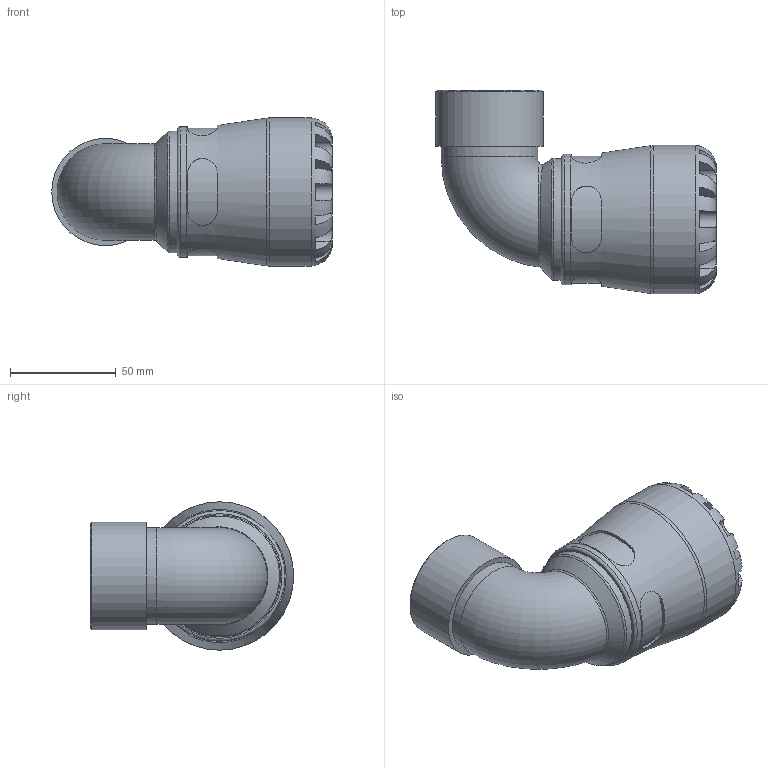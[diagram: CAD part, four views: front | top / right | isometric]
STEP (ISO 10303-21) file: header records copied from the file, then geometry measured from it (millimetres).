
FILE_DESCRIPTION(/* description */ ('PLASSON 90° ELBOW WITH THREADED FEMALE OFFTAKE 40X1.1/4" SERIES 1'),/* implementation_level */ '2;1');
FILE_NAME(/* name */ 'C:\Dropbox\KIMPROJECTS-Inventor\99-16-3568-Processing\S1\1015\101500040013_191500040013.ipt.stp',/* time_stamp */ '2017-07-30T11:52:02+03:00',/* author */ ('KIM'),/* organization */ (''),/* preprocessor_version */ 'ST-DEVELOPER v15.6',/* originating_system */ 'Autodesk Inventor 2015',/* authorisation */ '');
FILE_SCHEMA (('AUTOMOTIVE_DESIGN { 1 0 10303 214 3 1 1 }'));
Length unit declared in the file: millimetre
Products named in the file (1): 101500040013_191500040013
Bounding box: 132.32 x 96 x 70 mm (x, y, z)
Volume: 218932 mm3; surface area: 52354.4 mm2
Topology: 1 solids, 1 shells, 110 faces, 266 edges, 165 vertices
Faces by surface type: plane 62, cylinder 37, torus 6, bspline 3, cone 2
Full cylindrical faces by diameter (mm): 35.057 x2, 38.952 x1, 40 x1, 45.574 x1, 50.638 x1, 57.4 x1, 61.6 x1, 70 x1
Entity records: 4227 total; most frequent: CARTESIAN_POINT 1797, ORIENTED_EDGE 488, DIRECTION 487, EDGE_CURVE 244, AXIS2_PLACEMENT_3D 203, VERTEX_POINT 161, EDGE_LOOP 137, FACE_OUTER_BOUND 110
